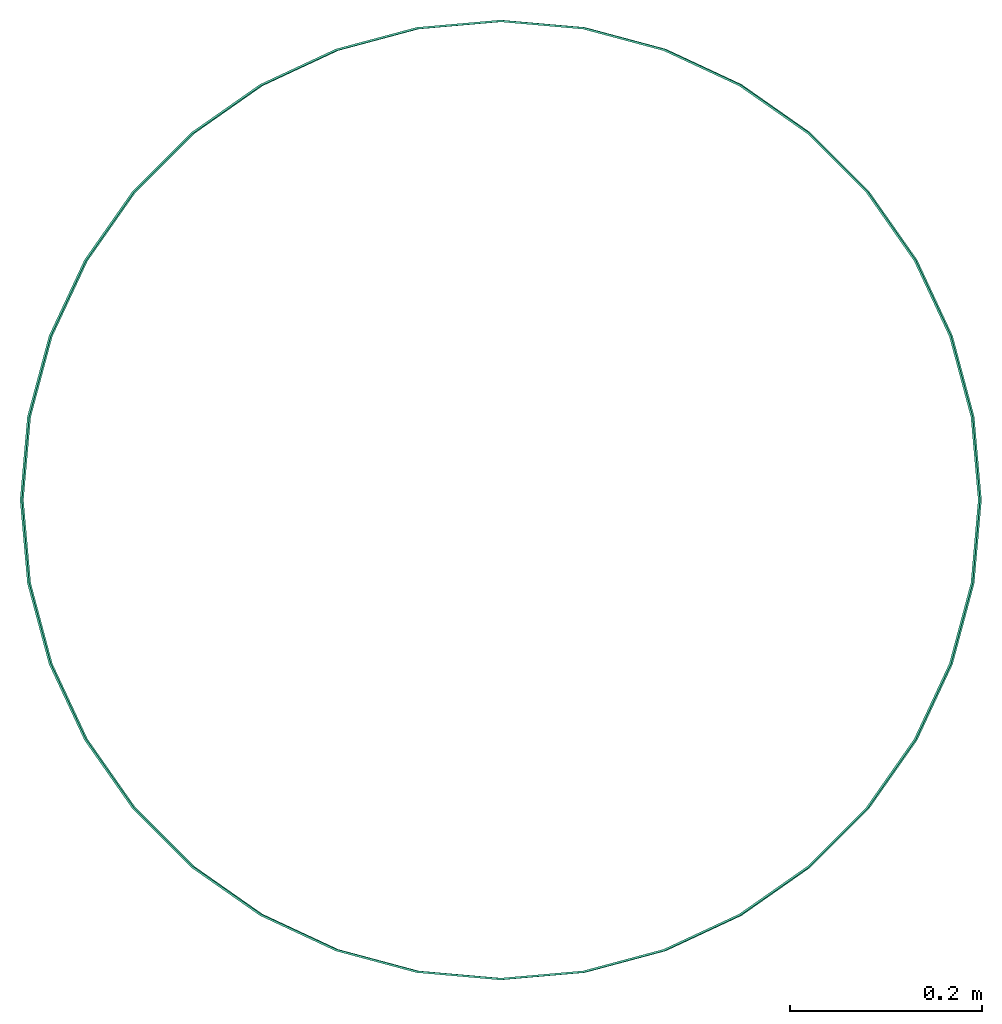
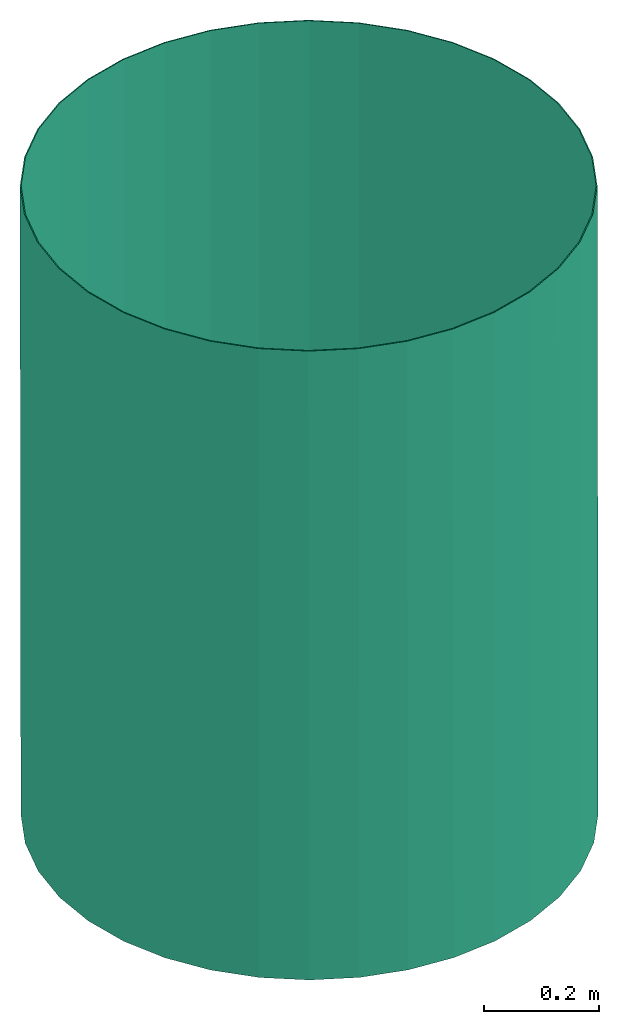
# One storey: 1 flow segment.
"""IFC2X3 building model written with IfcOpenShell, lengths in millimetres."""

import ifcopenshell
import ifcopenshell.guid

model = None  # the IFC model being written
_history = None  # IfcOwnerHistory: only IFC2X3 demands one
_inside = {}  # id of a spatial element -> (the spatial element, [elements in it])
_under = {}  # id of a project, library or spatial element -> (it, [spatial elements below it])
_declared = {}  # id of a project -> (the project, [libraries it declares])
_typed = {}  # id of a type object -> (the type object, [elements of that type])
_made_of = {}  # id of a material, layer set ... -> (it, [elements and type objects made of it])


def new_model(schema):
    """Start an empty IFC model of exactly this schema.

    Asked for "IFC4X3", IfcOpenShell would pick the latest addendum, in which some entities
    have other attributes; the version numbers below select the first issue.
    IFC2X3 requires an IfcOwnerHistory on every rooted entity: one is made here for all.
    """
    global model, _history
    if schema == "IFC4X3":
        model = ifcopenshell.file(schema_version=(4, 3, 0, 0))
    else:
        model = ifcopenshell.file(schema=schema)
    _inside.clear()
    _under.clear()
    _declared.clear()
    _typed.clear()
    _made_of.clear()
    _history = None
    if model.schema == "IFC2X3":
        org = make("IfcOrganization", Name="unknown")
        user = make(
            "IfcPersonAndOrganization",
            ThePerson=make("IfcPerson", FamilyName="unknown"),
            TheOrganization=org,
        )
        app = make(
            "IfcApplication",
            ApplicationDeveloper=org,
            Version="unknown",
            ApplicationFullName="unknown",
            ApplicationIdentifier="unknown",
        )
        _history = make(
            "IfcOwnerHistory",
            OwningUser=user,
            OwningApplication=app,
            ChangeAction="ADDED",
            CreationDate=0,
        )
    return model


def make(cls, **values):
    """One entity of the class cls with the attributes given. An attribute that is None is left unset."""
    return model.create_entity(
        cls, **{name: value for name, value in values.items() if value is not None}
    )


def entity(cls, *values):
    """Any entity or typed value of the class cls, its attributes in the order of the schema. None: left unset."""
    e = model.create_entity(cls)
    for i, value in enumerate(values):
        if value is not None:
            e[i] = value
    return e


def rooted(cls, **values):
    """An entity with a GlobalId (a new one), such as an element, a storey or a relation."""
    return make(cls, GlobalId=ifcopenshell.guid.new(), OwnerHistory=_history, **values)


def si_unit(unit_type, name, prefix=None):
    """IfcSIUnit, for example si_unit("LENGTHUNIT", "METRE", prefix="MILLI")."""
    return make("IfcSIUnit", UnitType=unit_type, Prefix=prefix, Name=name)


def converted_unit(unit_type, name, factor, base, dimensions=None, offset=None):
    """IfcConversionBasedUnit, such as the inch: factor (a typed value) times the base unit."""
    return make(
        "IfcConversionBasedUnit"
        if offset is None
        else "IfcConversionBasedUnitWithOffset",
        ConversionOffset=offset,
        Dimensions=None
        if dimensions is None
        else entity("IfcDimensionalExponents", *dimensions),
        UnitType=unit_type,
        Name=name,
        ConversionFactor=make(
            "IfcMeasureWithUnit", ValueComponent=factor, UnitComponent=base
        ),
    )


def derived_unit(unit_type, elements):
    """IfcDerivedUnit: a product of units, each with its exponent."""
    return make(
        "IfcDerivedUnit",
        Elements=[
            make("IfcDerivedUnitElement", Unit=unit, Exponent=power)
            for unit, power in elements
        ],
        UnitType=unit_type,
    )


def assignment(units):
    """IfcUnitAssignment: the units of a project."""
    return None if units is None else make("IfcUnitAssignment", Units=units)


def point(xyz):
    """IfcCartesianPoint."""
    return None if xyz is None else make("IfcCartesianPoint", Coordinates=xyz)


def direction(xyz):
    """IfcDirection."""
    return None if xyz is None else make("IfcDirection", DirectionRatios=xyz)


def frame(location, z_axis=None, x_axis=None):
    """IfcAxis2Placement3D, a coordinate frame: its origin and axes. An axis left out is left unset."""
    return make(
        "IfcAxis2Placement3D",
        Location=point(location),
        Axis=direction(z_axis),
        RefDirection=direction(x_axis),
    )


def place(relative_to, where):
    """IfcLocalPlacement: puts the frame where relative to a parent placement (None: the world)."""
    return make(
        "IfcLocalPlacement", PlacementRelTo=relative_to, RelativePlacement=where
    )


def context(
    kind, dimensions, precision=None, world=None, true_north=None, identifier=None
):
    """IfcGeometricRepresentationContext, for example the 3D "Model" context."""
    return make(
        "IfcGeometricRepresentationContext",
        ContextIdentifier=identifier,
        ContextType=kind,
        CoordinateSpaceDimension=dimensions,
        Precision=precision,
        WorldCoordinateSystem=world,
        TrueNorth=true_north,
    )


def subcontext(parent, identifier, kind, view, scale=None):
    """IfcGeometricRepresentationSubContext, for example "Body" below "Model"."""
    return make(
        "IfcGeometricRepresentationSubContext",
        ContextIdentifier=identifier,
        ContextType=kind,
        ParentContext=parent,
        TargetScale=scale,
        TargetView=view,
    )


def project(units=None, contexts=None):
    """IfcProject with its units and contexts."""
    return rooted(
        "IfcProject",
        Name="project",
        RepresentationContexts=contexts,
        UnitsInContext=assignment(units),
    )


def spatial(cls, under=None, at=None, **own):
    """A site, building, storey or space (cls), placed at a placement, below another one or the project."""
    s = rooted(cls, ObjectPlacement=at, **own)
    if under is not None:
        _under.setdefault(under.id(), (under, []))[1].append(s)
    return s


def faces_of(points, faces, orient=None, outer=None):
    """IfcFace entities. A face is a list of loops; a loop is a list of indices into points, from 0.

    orient and outer hold one flag for each loop. By default every Orientation is true, the
    first loop of a face is its IfcFaceOuterBound and the others are IfcFaceBound.
    """
    made = []
    for i, loops in enumerate(faces):
        bounds = []
        for j, loop in enumerate(loops):
            is_outer = j == 0 if outer is None else outer[i][j]
            bounds.append(
                make(
                    "IfcFaceOuterBound" if is_outer else "IfcFaceBound",
                    Bound=make("IfcPolyLoop", Polygon=[points[k] for k in loop]),
                    Orientation=True if orient is None else orient[i][j],
                )
            )
        made.append(make("IfcFace", Bounds=bounds))
    return made


def faceted_brep(points, faces, orient=None, outer=None, voids=None):
    """IfcFacetedBrep: a solid bounded by flat faces; with voids (closed shells), ...WithVoids."""
    shared = [point(p) for p in points]
    hull = make("IfcClosedShell", CfsFaces=faces_of(shared, faces, orient, outer))
    if voids is None:
        return make("IfcFacetedBrep", Outer=hull)
    return make(
        "IfcFacetedBrepWithVoids",
        Outer=hull,
        Voids=[
            make(cls, CfsFaces=faces_of(shared, fs, o, b)) for cls, fs, o, b in voids
        ],
    )


def shape(context_of_items, identifier, shape_type, items):
    """IfcShapeRepresentation: the items that make up one representation, for example the "Body"."""
    return make(
        "IfcShapeRepresentation",
        ContextOfItems=context_of_items,
        RepresentationIdentifier=identifier,
        RepresentationType=shape_type,
        Items=items,
    )


def made_of(thing, what):
    """Note that an element or type object is made of a material, layer set ...; save() writes the relation."""
    if what is not None:
        _made_of.setdefault(what.id(), (what, []))[1].append(thing)
    return thing


def type_object(cls, material=None, **own):
    """A type object (cls), such as IfcWallType, which elements share."""
    return made_of(rooted(cls, **own), material)


def element(
    cls,
    number,
    at=None,
    inside=None,
    cuts=None,
    type_object=None,
    material=None,
    context=None,
    identifier="Body",
    shape_type=None,
    held_by="IfcProductDefinitionShape",
    body=None,
    shapes=None,
    **own,
):
    """One element of the class cls, such as IfcWall. Its Tag is "e" and its number.

    at: its placement. inside: the storey or other place that contains it. cuts: it is an
    opening in that element (IfcRelVoidsElement). A single representation is given by context,
    identifier, shape_type and body (its items); several are given by shapes. held_by: the class
    of the entity that holds the representations. save() writes the other relations.
    """
    e = rooted(cls, Tag="e%d" % number, ObjectPlacement=at, **own)
    if body is not None:
        shapes = [shape(context, identifier, shape_type, body)]
    if shapes is not None:
        e.Representation = make(held_by, Representations=shapes)
    if inside is not None:
        _inside.setdefault(inside.id(), (inside, []))[1].append(e)
    if cuts is not None:
        rooted(
            "IfcRelVoidsElement", RelatingBuildingElement=cuts, RelatedOpeningElement=e
        )
    if type_object is not None:
        _typed.setdefault(type_object.id(), (type_object, []))[1].append(e)
    return made_of(e, material)


def aggregate(whole, parts):
    """IfcRelAggregates: a whole, such as a stair, and the parts it consists of."""
    return rooted("IfcRelAggregates", RelatingObject=whole, RelatedObjects=parts)


def save(model, path):
    """Write the relations noted so far, then the file.

    IfcRelAggregates (storeys below a building ...), IfcRelContainedInSpatialStructure (elements
    in a storey), IfcRelDefinesByType, IfcRelAssociatesMaterial and IfcRelDeclares: one each for
    every whole, place, type object, material and project.
    """
    for whole, parts in _under.values():
        aggregate(whole, parts)
    for where, things in _inside.values():
        rooted(
            "IfcRelContainedInSpatialStructure",
            RelatedElements=things,
            RelatingStructure=where,
        )
    for kind, things in _typed.values():
        rooted("IfcRelDefinesByType", RelatedObjects=things, RelatingType=kind)
    for what, things in _made_of.values():
        rooted("IfcRelAssociatesMaterial", RelatedObjects=things, RelatingMaterial=what)
    for by, libraries in _declared.values():
        rooted("IfcRelDeclares", RelatingContext=by, RelatedDefinitions=libraries)
    model.write(path)


model = new_model("IFC2X3")

# Units and contexts
model_context = context("Model", 3, precision=0.01, world=frame((0.0, 4.29681676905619e-09, 0.0)), true_north=direction((4.01073788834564e-13, 1.0)))
plan_context = context("Plan", 3, precision=0.01, world=frame((0.0, 4.29681676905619e-09, 0.0)), true_north=direction((4.01073788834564e-13, 1.0)))
body_context = subcontext(model_context, "Body", "Model", "MODEL_VIEW")
ifc_project = project(units=[converted_unit("PLANEANGLEUNIT", "DEGREE", entity("IfcPositiveLengthMeasure", 0.0174532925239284), si_unit("PLANEANGLEUNIT", "RADIAN"), dimensions=[0, 0, 0, 0, 0, 0, 0]), si_unit("AREAUNIT", "SQUARE_METRE"), si_unit("LENGTHUNIT", "METRE", prefix="MILLI"), si_unit("MASSUNIT", "GRAM", prefix="KILO"), si_unit("POWERUNIT", "WATT"), si_unit("PRESSUREUNIT", "PASCAL", prefix="KILO"), si_unit("FORCEUNIT", "NEWTON", prefix="KILO"), si_unit("ELECTRICVOLTAGEUNIT", "VOLT"), si_unit("ELECTRICCURRENTUNIT", "AMPERE"), si_unit("THERMODYNAMICTEMPERATUREUNIT", "DEGREE_CELSIUS"), si_unit("TIMEUNIT", "SECOND"), si_unit("VOLUMEUNIT", "CUBIC_METRE"), derived_unit("LINEARVELOCITYUNIT", [(si_unit("LENGTHUNIT", "METRE"), 1), (si_unit("TIMEUNIT", "SECOND"), -1)]), derived_unit("VOLUMETRICFLOWRATEUNIT", [(si_unit("VOLUMEUNIT", "CUBIC_METRE"), 1), (si_unit("TIMEUNIT", "SECOND"), -1)]), derived_unit("THERMALTRANSMITTANCEUNIT", [(si_unit("POWERUNIT", "WATT"), 1), (si_unit("THERMODYNAMICTEMPERATUREUNIT", "KELVIN"), -1), (si_unit("AREAUNIT", "SQUARE_METRE"), -1)]), derived_unit("SOUNDPRESSUREUNIT", [(si_unit("PRESSUREUNIT", "PASCAL"), 1)])], contexts=[model_context, plan_context])

# Site, building, storey
site_placement = place(None, frame((0.0, -4.29681676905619e-09, 0.0), z_axis=(0.0, 0.0, 1.0), x_axis=(1.0, 0.0, 0.0)))
site = spatial("IfcSite", under=ifc_project, at=site_placement, CompositionType="ELEMENT")
building_placement = place(site_placement, frame((0.0, 4.29681676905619e-09, 0.0), z_axis=(0.0, 0.0, 1.0), x_axis=(1.0, 0.0, 0.0)))
building = spatial("IfcBuilding", under=site, at=building_placement, Name="mc-building", CompositionType="ELEMENT")
storey_placement = place(building_placement, frame((0.0, 0.0, 219200.0), z_axis=(0.0, 0.0, 1.0), x_axis=(1.0, 0.0, 0.0)))
storey = spatial("IfcBuildingStorey", under=building, at=storey_placement, Name="Nivå H", CompositionType="ELEMENT", Elevation=219200.0)

# Flow segment
duct_segment_type = type_object("IfcDuctSegmentType", Name="KK002T - Spiro kanaler, Forsinket stål, korte bend", PredefinedType="RIGIDSEGMENT")
flow_segment_placement = place(storey_placement, frame((719958.29934, 440424.13222, 199.577619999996), z_axis=(0.0, 1.0, 0.0), x_axis=(0.00128600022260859, 0.0, -0.999999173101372)))
element("IfcFlowSegment", 1, at=flow_segment_placement, inside=storey, type_object=duct_segment_type, Name="KK002T - Spiro kanaler, Forsinket stål, korte bend", context=body_context, shape_type="Brep", body=[
    faceted_brep([(3998.95022815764, 490.43426100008, -86.4767924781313), (3998.94049860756, 498.0, 0.0), (5329.6, 498.0, 0.0), (5329.6, 490.43426100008, -86.4767924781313), (3998.97912118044, 467.966925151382, -170.326031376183), (5329.6, 467.966925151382, -170.326031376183), (3999.02629977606, 431.28065108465, -249.0), (5329.6, 431.28065108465, -249.0), (3999.09033044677, 381.490132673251, -320.108229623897), (5329.6, 381.490132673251, -320.108229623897), (3999.16926765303, 320.108229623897, -381.490132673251), (5329.6, 320.108229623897, -381.490132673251), (3999.26071292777, 249.0, -431.28065108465), (5329.6, 249.0, -431.28065108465), (3999.3618877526, 170.326031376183, -467.966925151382), (5329.6, 170.326031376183, -467.966925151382), (3999.46971798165, 86.4767924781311, -490.43426100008), (5329.6, 86.4767924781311, -490.43426100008), (3999.58092724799, -9.14811158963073e-14, -498.0), (5329.6, -9.14811158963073e-14, -498.0), (3999.69213651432, -86.4767924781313, -490.43426100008), (5329.6, -86.4767924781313, -490.43426100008), (3999.79996674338, -170.326031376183, -467.966925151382), (5329.6, -170.326031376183, -467.966925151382), (3999.9011415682, -249.0, -431.28065108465), (5329.6, -249.0, -431.28065108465), (3999.99258684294, -320.108229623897, -381.490132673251), (5329.6, -320.108229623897, -381.490132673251), (4000.0715240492, -381.490132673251, -320.108229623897), (5329.6, -381.490132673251, -320.108229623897), (4000.13555471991, -431.280651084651, -249.0), (5329.6, -431.280651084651, -249.0), (4000.18273331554, -467.966925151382, -170.326031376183), (5329.6, -467.966925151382, -170.326031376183), (4000.21162633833, -490.43426100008, -86.4767924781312), (5329.6, -490.43426100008, -86.4767924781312), (4000.22135588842, -498.0, 6.09874105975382e-14), (5329.6, -498.0, 6.09874105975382e-14), (4000.21162633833, -490.43426100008, 86.4767924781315), (5329.6, -490.43426100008, 86.4767924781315), (4000.18273331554, -467.966925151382, 170.326031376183), (5329.6, -467.966925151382, 170.326031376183), (4000.13555471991, -431.28065108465, 249.0), (5329.6, -431.28065108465, 249.0), (4000.0715240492, -381.490132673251, 320.108229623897), (5329.6, -381.490132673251, 320.108229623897), (3999.99258684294, -320.108229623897, 381.490132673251), (5329.6, -320.108229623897, 381.490132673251), (3999.9011415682, -249.0, 431.28065108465), (5329.6, -249.0, 431.28065108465), (3999.79996674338, -170.326031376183, 467.966925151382), (5329.6, -170.326031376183, 467.966925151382), (3999.69213651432, -86.4767924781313, 490.43426100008), (5329.6, -86.4767924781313, 490.43426100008), (3999.58092724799, 3.04937052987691e-14, 498.0), (5329.6, 3.04937052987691e-14, 498.0), (3999.46971798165, 86.4767924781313, 490.43426100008), (5329.6, 86.4767924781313, 490.43426100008), (3999.3618877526, 170.326031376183, 467.966925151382), (5329.6, 170.326031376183, 467.966925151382), (3999.26071292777, 249.0, 431.28065108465), (5329.6, 249.0, 431.28065108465), (3999.16926765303, 320.108229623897, 381.490132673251), (5329.6, 320.108229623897, 381.490132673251), (3999.09033044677, 381.490132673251, 320.108229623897), (5329.6, 381.490132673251, 320.108229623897), (3999.02629977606, 431.280651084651, 249.0), (5329.6, 431.28065108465, 249.0), (3998.97912118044, 467.966925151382, 170.326031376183), (5329.6, 467.966925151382, 170.326031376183), (3998.95022815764, 490.43426100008, 86.4767924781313), (5329.6, 490.43426100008, 86.4767924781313), (3998.93792660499, 500.0, 0.0), (3998.94769522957, 492.403876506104, -86.8240888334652), (5329.6, 492.403876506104, -86.8240888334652), (5329.6, 500.0, 0.0), (3998.94769522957, 492.403876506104, 86.8240888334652), (5329.6, 492.403876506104, 86.8240888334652), (3998.9767042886, 469.846310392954, 171.010071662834), (5329.6, 469.846310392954, 171.010071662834), (3999.0240723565, 433.012701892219, 250.0), (5329.6, 433.012701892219, 250.0), (3999.08836017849, 383.022221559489, 321.39380484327), (5329.6, 383.022221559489, 321.39380484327), (3999.16761440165, 321.39380484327, 383.022221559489), (5329.6, 321.39380484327, 383.022221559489), (3999.25942692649, 250.0, 433.012701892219), (5329.6, 250.0, 433.012701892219), (3999.36100807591, 171.010071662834, 469.846310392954), (5329.6, 171.010071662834, 469.846310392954), (3999.46927135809, 86.8240888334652, 492.403876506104), (5329.6, 86.8240888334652, 492.403876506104), (3999.58092724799, 3.06161699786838e-14, 500.0), (5329.6, 3.06161699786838e-14, 500.0), (3999.69258313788, -86.8240888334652, 492.403876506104), (5329.6, -86.8240888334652, 492.403876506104), (3999.80084642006, -171.010071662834, 469.846310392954), (5329.6, -171.010071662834, 469.846310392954), (3999.90242756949, -250.0, 433.012701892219), (5329.6, -250.0, 433.012701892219), (3999.99424009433, -321.39380484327, 383.022221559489), (5329.6, -321.39380484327, 383.022221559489), (4000.07349431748, -383.022221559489, 321.39380484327), (5329.6, -383.022221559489, 321.39380484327), (4000.13778213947, -433.012701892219, 250.0), (5329.6, -433.012701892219, 250.0), (4000.18515020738, -469.846310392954, 171.010071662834), (5329.6, -469.846310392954, 171.010071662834), (4000.21415926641, -492.403876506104, 86.8240888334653), (5329.6, -492.403876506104, 86.8240888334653), (4000.22392789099, -500.0, 6.12323399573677e-14), (5329.6, -500.0, 6.12323399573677e-14), (4000.21415926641, -492.403876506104, -86.824088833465), (5329.6, -492.403876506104, -86.824088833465), (4000.18515020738, -469.846310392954, -171.010071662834), (5329.6, -469.846310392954, -171.010071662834), (4000.13778213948, -433.012701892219, -250.0), (5329.6, -433.012701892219, -250.0), (4000.07349431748, -383.022221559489, -321.39380484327), (5329.6, -383.022221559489, -321.39380484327), (3999.99424009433, -321.39380484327, -383.022221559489), (5329.6, -321.39380484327, -383.022221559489), (3999.90242756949, -250.0, -433.012701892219), (5329.6, -250.0, -433.012701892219), (3999.80084642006, -171.010071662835, -469.846310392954), (5329.6, -171.010071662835, -469.846310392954), (3999.69258313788, -86.8240888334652, -492.403876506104), (5329.6, -86.8240888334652, -492.403876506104), (3999.58092724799, -9.18485099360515e-14, -500.0), (5329.6, -9.18485099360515e-14, -500.0), (3999.46927135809, 86.824088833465, -492.403876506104), (5329.6, 86.824088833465, -492.403876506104), (3999.36100807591, 171.010071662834, -469.846310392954), (5329.6, 171.010071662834, -469.846310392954), (3999.25942692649, 250.0, -433.012701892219), (5329.6, 250.0, -433.012701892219), (3999.16761440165, 321.39380484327, -383.022221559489), (5329.6, 321.39380484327, -383.022221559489), (3999.08836017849, 383.022221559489, -321.39380484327), (5329.6, 383.022221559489, -321.39380484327), (3999.0240723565, 433.012701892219, -250.0), (5329.6, 433.012701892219, -250.0), (3998.9767042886, 469.846310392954, -171.010071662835), (5329.6, 469.846310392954, -171.010071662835)], [[[0, 1, 2, 3]], [[4, 0, 3, 5]], [[6, 4, 5, 7]], [[8, 6, 7, 9]], [[10, 8, 9, 11]], [[12, 10, 11, 13]], [[14, 12, 13, 15]], [[16, 14, 15, 17]], [[18, 16, 17, 19]], [[20, 18, 19, 21]], [[22, 20, 21, 23]], [[24, 22, 23, 25]], [[26, 24, 25, 27]], [[28, 26, 27, 29]], [[30, 28, 29, 31]], [[32, 30, 31, 33]], [[34, 32, 33, 35]], [[36, 34, 35, 37]], [[38, 36, 37, 39]], [[40, 38, 39, 41]], [[42, 40, 41, 43]], [[44, 42, 43, 45]], [[46, 44, 45, 47]], [[48, 46, 47, 49]], [[50, 48, 49, 51]], [[52, 50, 51, 53]], [[54, 52, 53, 55]], [[56, 54, 55, 57]], [[58, 56, 57, 59]], [[60, 58, 59, 61]], [[62, 60, 61, 63]], [[64, 62, 63, 65]], [[66, 64, 65, 67]], [[68, 66, 67, 69]], [[70, 68, 69, 71]], [[1, 70, 71, 2]], [[72, 73, 74, 75]], [[76, 72, 75, 77]], [[78, 76, 77, 79]], [[80, 78, 79, 81]], [[82, 80, 81, 83]], [[84, 82, 83, 85]], [[86, 84, 85, 87]], [[88, 86, 87, 89]], [[90, 88, 89, 91]], [[92, 90, 91, 93]], [[94, 92, 93, 95]], [[96, 94, 95, 97]], [[98, 96, 97, 99]], [[100, 98, 99, 101]], [[102, 100, 101, 103]], [[104, 102, 103, 105]], [[106, 104, 105, 107]], [[108, 106, 107, 109]], [[110, 108, 109, 111]], [[112, 110, 111, 113]], [[114, 112, 113, 115]], [[116, 114, 115, 117]], [[118, 116, 117, 119]], [[120, 118, 119, 121]], [[122, 120, 121, 123]], [[124, 122, 123, 125]], [[126, 124, 125, 127]], [[128, 126, 127, 129]], [[130, 128, 129, 131]], [[132, 130, 131, 133]], [[134, 132, 133, 135]], [[136, 134, 135, 137]], [[138, 136, 137, 139]], [[140, 138, 139, 141]], [[142, 140, 141, 143]], [[73, 142, 143, 74]], [[75, 74, 143, 141, 139, 137, 135, 133, 131, 129, 127, 125, 123, 121, 119, 117, 115, 113, 111, 109, 107, 105, 103, 101, 99, 97, 95, 93, 91, 89, 87, 85, 83, 81, 79, 77], [2, 71, 69, 67, 65, 63, 61, 59, 57, 55, 53, 51, 49, 47, 45, 43, 41, 39, 37, 35, 33, 31, 29, 27, 25, 23, 21, 19, 17, 15, 13, 11, 9, 7, 5, 3]], [[76, 78, 80, 82, 84, 86, 88, 90, 92, 94, 96, 98, 100, 102, 104, 106, 108, 110, 112, 114, 116, 118, 120, 122, 124, 126, 128, 130, 132, 134, 136, 138, 140, 142, 73, 72], [4, 6, 8, 10, 12, 14, 16, 18, 20, 22, 24, 26, 28, 30, 32, 34, 36, 38, 40, 42, 44, 46, 48, 50, 52, 54, 56, 58, 60, 62, 64, 66, 68, 70, 1, 0]]], orient=[[False], [False], [False], [False], [False], [False], [False], [False], [False], [False], [False], [False], [False], [False], [False], [False], [False], [False], [False], [False], [False], [False], [False], [False], [False], [False], [False], [False], [False], [False], [False], [False], [False], [False], [False], [False], [False], [False], [False], [False], [False], [False], [False], [False], [False], [False], [False], [False], [False], [False], [False], [False], [False], [False], [False], [False], [False], [False], [False], [False], [False], [False], [False], [False], [False], [False], [False], [False], [False], [False], [False], [False], [False, False], [False, False]]),
])

save(model, "model.ifc")
